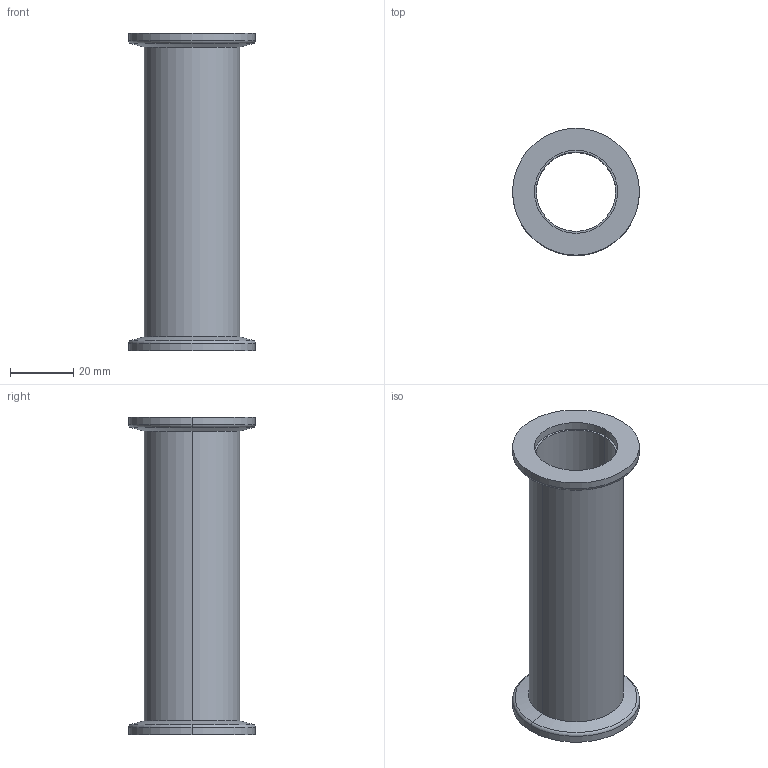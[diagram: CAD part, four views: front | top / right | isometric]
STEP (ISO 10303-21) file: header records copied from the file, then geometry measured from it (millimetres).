
FILE_DESCRIPTION (( 'STEP AP214' ), '1' );
FILE_NAME ('W3ZS25.STEP', '2019-11-29T07:35:51', ( '' ), ( '' ), 'SwSTEP 2.0', 'SolidWorks 2018', '' );
FILE_SCHEMA (( 'AUTOMOTIVE_DESIGN' ));
Length unit declared in the file: millimetre
Products named in the file (1): W3ZS25
Bounding box: 40 x 40 x 100 mm (x, y, z)
Volume: 25329.2 mm3; surface area: 19846 mm2
Topology: 1 solids, 1 shells, 24 faces, 48 edges, 28 vertices
Faces by surface type: cylinder 12, torus 4, cone 4, plane 4
Entity records: 666 total; most frequent: DIRECTION 130, CARTESIAN_POINT 101, ORIENTED_EDGE 96, AXIS2_PLACEMENT_3D 57, EDGE_CURVE 48, CIRCLE 32, EDGE_LOOP 28, VERTEX_POINT 28
